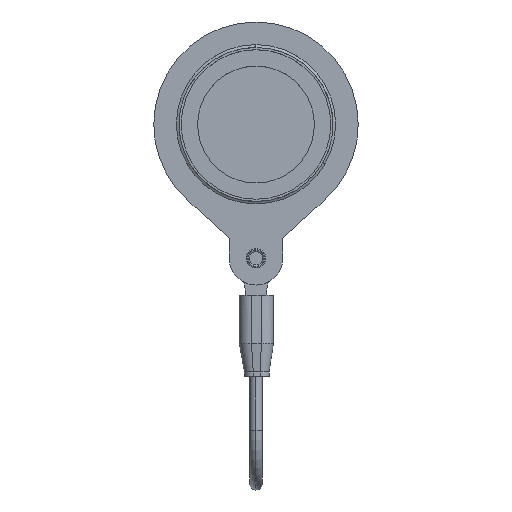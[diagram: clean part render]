
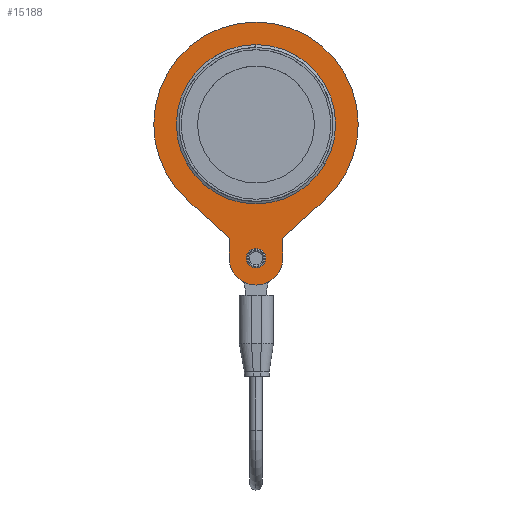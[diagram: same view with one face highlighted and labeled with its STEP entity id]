
A CAD part, top view. The second image highlights one B-rep face of the part: STEP entity #15188.
In plain terms, the highlighted planar face has unit normal (0, 0, 1) as drawn and (0, 0, -1) by its records, which use the part's own axes.
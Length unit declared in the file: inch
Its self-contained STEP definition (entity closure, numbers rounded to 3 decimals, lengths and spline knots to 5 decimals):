
#236 = AXIS2_PLACEMENT_3D ( 'NONE', #7366, #30280, #48972 ) ;
#564 = ORIENTED_EDGE ( 'NONE', *, *, #56717, .T. ) ;
#589 = PLANE ( 'NONE',  #7581 ) ;
#1624 = DIRECTION ( 'NONE',  ( 0.738, 0.675, 0. ) ) ;
#3033 = DIRECTION ( 'NONE',  ( 1., 0., 0. ) ) ;
#3149 = EDGE_CURVE ( 'NONE', #27110, #58055, #57887, .T. ) ;
#3288 = EDGE_CURVE ( 'NONE', #53786, #36966, #39912, .T. ) ;
#3303 = EDGE_LOOP ( 'NONE', ( #25141, #29158, #42388, #5789, #23651, #4528, #16170, #40617 ) ) ;
#3413 = CARTESIAN_POINT ( 'NONE',  ( 0.76575, 0., -0.01378 ) ) ;
#4110 = ORIENTED_EDGE ( 'NONE', *, *, #49010, .T. ) ;
#4183 = CARTESIAN_POINT ( 'NONE',  ( 0., -1.00394, -0.01378 ) ) ;
#4528 = ORIENTED_EDGE ( 'NONE', *, *, #10895, .F. ) ;
#5789 = ORIENTED_EDGE ( 'NONE', *, *, #35736, .F. ) ;
#6089 = CARTESIAN_POINT ( 'NONE',  ( -0.20079, -0.85433, -0.01378 ) ) ;
#6614 = AXIS2_PLACEMENT_3D ( 'NONE', #15261, #48832, #3033 ) ;
#6969 = DIRECTION ( 'NONE',  ( 0.738, -0.675, 0. ) ) ;
#7366 = CARTESIAN_POINT ( 'NONE',  ( 0., -1.00394, -0.01378 ) ) ;
#7461 = VERTEX_POINT ( 'NONE', #3413 ) ;
#7581 = AXIS2_PLACEMENT_3D ( 'NONE', #4183, #58597, #32410 ) ;
#8350 = CARTESIAN_POINT ( 'NONE',  ( 0., 0., -0.01378 ) ) ;
#8975 = DIRECTION ( 'NONE',  ( 0., 0., 1. ) ) ;
#10235 = EDGE_CURVE ( 'NONE', #7461, #47199, #55820, .T. ) ;
#10895 = EDGE_CURVE ( 'NONE', #36844, #7461, #27417, .T. ) ;
#12423 = CARTESIAN_POINT ( 'NONE',  ( 0.20079, -0.85433, -0.01378 ) ) ;
#13531 = CARTESIAN_POINT ( 'NONE',  ( 0., 0., -0.01378 ) ) ;
#13566 = DIRECTION ( 'NONE',  ( 1., 0., 0. ) ) ;
#13740 = DIRECTION ( 'NONE',  ( 1., 0., 0. ) ) ;
#15188 = ADVANCED_FACE ( 'NONE', ( #22641, #18750, #26799 ), #589, .F. ) ;
#15261 = CARTESIAN_POINT ( 'NONE',  ( 0., 0., -0.01378 ) ) ;
#16170 = ORIENTED_EDGE ( 'NONE', *, *, #34767, .F. ) ;
#16897 = LINE ( 'NONE', #12423, #30117 ) ;
#17379 = CIRCLE ( 'NONE', #236, 0.20079 ) ;
#18290 = CARTESIAN_POINT ( 'NONE',  ( 0.06102, -1.00394, -0.01378 ) ) ;
#18657 = DIRECTION ( 'NONE',  ( 1., 0., 0. ) ) ;
#18750 = FACE_BOUND ( 'NONE', #41202, .T. ) ;
#18751 = CARTESIAN_POINT ( 'NONE',  ( 0.20079, -1.00394, -0.01378 ) ) ;
#18827 = AXIS2_PLACEMENT_3D ( 'NONE', #22512, #40049, #13566 ) ;
#19656 = CARTESIAN_POINT ( 'NONE',  ( -0.76575, 0., -0.01378 ) ) ;
#22512 = CARTESIAN_POINT ( 'NONE',  ( 0., 0., -0.01378 ) ) ;
#22589 = VERTEX_POINT ( 'NONE', #18290 ) ;
#22610 = EDGE_CURVE ( 'NONE', #58055, #27110, #50697, .T. ) ;
#22641 = FACE_BOUND ( 'NONE', #23434, .T. ) ;
#23434 = EDGE_LOOP ( 'NONE', ( #4110, #564 ) ) ;
#23651 = ORIENTED_EDGE ( 'NONE', *, *, #10235, .F. ) ;
#24348 = VERTEX_POINT ( 'NONE', #18751 ) ;
#24537 = CARTESIAN_POINT ( 'NONE',  ( -0.59646, 0., -0.01378 ) ) ;
#24852 = LINE ( 'NONE', #6089, #51464 ) ;
#25078 = CIRCLE ( 'NONE', #58282, 0.76575 ) ;
#25141 = ORIENTED_EDGE ( 'NONE', *, *, #53721, .F. ) ;
#26799 = FACE_OUTER_BOUND ( 'NONE', #3303, .T. ) ;
#27110 = VERTEX_POINT ( 'NONE', #30362 ) ;
#27417 = CIRCLE ( 'NONE', #51109, 0.76575 ) ;
#28765 = EDGE_CURVE ( 'NONE', #56062, #53786, #24852, .T. ) ;
#29158 = ORIENTED_EDGE ( 'NONE', *, *, #3288, .F. ) ;
#29950 = VERTEX_POINT ( 'NONE', #34712 ) ;
#30117 = VECTOR ( 'NONE', #30579, 39.37008 ) ;
#30280 = DIRECTION ( 'NONE',  ( 0., 0., 1. ) ) ;
#30362 = CARTESIAN_POINT ( 'NONE',  ( 0.59646, 0., -0.01378 ) ) ;
#30579 = DIRECTION ( 'NONE',  ( 0., 1., 0. ) ) ;
#30767 = VECTOR ( 'NONE', #1624, 39.37008 ) ;
#30839 = AXIS2_PLACEMENT_3D ( 'NONE', #45988, #41224, #18657 ) ;
#32410 = DIRECTION ( 'NONE',  ( 1., 0., 0. ) ) ;
#33154 = CARTESIAN_POINT ( 'NONE',  ( 0.20079, -0.85433, -0.01378 ) ) ;
#33332 = VERTEX_POINT ( 'NONE', #42124 ) ;
#34077 = ORIENTED_EDGE ( 'NONE', *, *, #3149, .T. ) ;
#34712 = CARTESIAN_POINT ( 'NONE',  ( 0.20079, -0.85433, -0.01378 ) ) ;
#34716 = CARTESIAN_POINT ( 'NONE',  ( -0.20079, -0.85433, -0.01378 ) ) ;
#34767 = EDGE_CURVE ( 'NONE', #29950, #36844, #47420, .T. ) ;
#34877 = CARTESIAN_POINT ( 'NONE',  ( 0., 0., -0.01378 ) ) ;
#35168 = CARTESIAN_POINT ( 'NONE',  ( -0.20079, -0.85433, -0.01378 ) ) ;
#35464 = DIRECTION ( 'NONE',  ( 1., 0., 0. ) ) ;
#35736 = EDGE_CURVE ( 'NONE', #47199, #56062, #25078, .T. ) ;
#36075 = CARTESIAN_POINT ( 'NONE',  ( 0., -1.00394, -0.01378 ) ) ;
#36149 = DIRECTION ( 'NONE',  ( 0., 0., 1. ) ) ;
#36844 = VERTEX_POINT ( 'NONE', #57125 ) ;
#36966 = VERTEX_POINT ( 'NONE', #41036 ) ;
#39011 = DIRECTION ( 'NONE',  ( 0., 0., 1. ) ) ;
#39912 = LINE ( 'NONE', #35168, #48003 ) ;
#40049 = DIRECTION ( 'NONE',  ( 0., 0., 1. ) ) ;
#40617 = ORIENTED_EDGE ( 'NONE', *, *, #43479, .F. ) ;
#41036 = CARTESIAN_POINT ( 'NONE',  ( -0.20079, -1.00394, -0.01378 ) ) ;
#41202 = EDGE_LOOP ( 'NONE', ( #34077, #42090 ) ) ;
#41224 = DIRECTION ( 'NONE',  ( 0., 0., 1. ) ) ;
#42090 = ORIENTED_EDGE ( 'NONE', *, *, #22610, .T. ) ;
#42124 = CARTESIAN_POINT ( 'NONE',  ( -0.06102, -1.00394, -0.01378 ) ) ;
#42388 = ORIENTED_EDGE ( 'NONE', *, *, #28765, .F. ) ;
#42610 = CIRCLE ( 'NONE', #50191, 0.06102 ) ;
#43479 = EDGE_CURVE ( 'NONE', #24348, #29950, #16897, .T. ) ;
#45047 = DIRECTION ( 'NONE',  ( 1., 0., 0. ) ) ;
#45988 = CARTESIAN_POINT ( 'NONE',  ( 0., -1.00394, -0.01378 ) ) ;
#47199 = VERTEX_POINT ( 'NONE', #19656 ) ;
#47420 = LINE ( 'NONE', #33154, #30767 ) ;
#48003 = VECTOR ( 'NONE', #53281, 39.37008 ) ;
#48185 = CARTESIAN_POINT ( 'NONE',  ( -0.51704, -0.56483, -0.01378 ) ) ;
#48207 = DIRECTION ( 'NONE',  ( 1., 0., 0. ) ) ;
#48832 = DIRECTION ( 'NONE',  ( 0., 0., 1. ) ) ;
#48972 = DIRECTION ( 'NONE',  ( 1., 0., 0. ) ) ;
#49010 = EDGE_CURVE ( 'NONE', #22589, #33332, #42610, .T. ) ;
#50191 = AXIS2_PLACEMENT_3D ( 'NONE', #36075, #8975, #13740 ) ;
#50697 = CIRCLE ( 'NONE', #52612, 0.59646 ) ;
#51109 = AXIS2_PLACEMENT_3D ( 'NONE', #34877, #58631, #35464 ) ;
#51464 = VECTOR ( 'NONE', #6969, 39.37008 ) ;
#52612 = AXIS2_PLACEMENT_3D ( 'NONE', #13531, #36149, #45047 ) ;
#53281 = DIRECTION ( 'NONE',  ( 0., -1., 0. ) ) ;
#53721 = EDGE_CURVE ( 'NONE', #36966, #24348, #17379, .T. ) ;
#53786 = VERTEX_POINT ( 'NONE', #34716 ) ;
#55820 = CIRCLE ( 'NONE', #18827, 0.76575 ) ;
#56062 = VERTEX_POINT ( 'NONE', #48185 ) ;
#56717 = EDGE_CURVE ( 'NONE', #33332, #22589, #58368, .T. ) ;
#57125 = CARTESIAN_POINT ( 'NONE',  ( 0.51704, -0.56483, -0.01378 ) ) ;
#57887 = CIRCLE ( 'NONE', #6614, 0.59646 ) ;
#58055 = VERTEX_POINT ( 'NONE', #24537 ) ;
#58282 = AXIS2_PLACEMENT_3D ( 'NONE', #8350, #39011, #48207 ) ;
#58368 = CIRCLE ( 'NONE', #30839, 0.06102 ) ;
#58597 = DIRECTION ( 'NONE',  ( 0., 0., 1. ) ) ;
#58631 = DIRECTION ( 'NONE',  ( 0., 0., 1. ) ) ;
